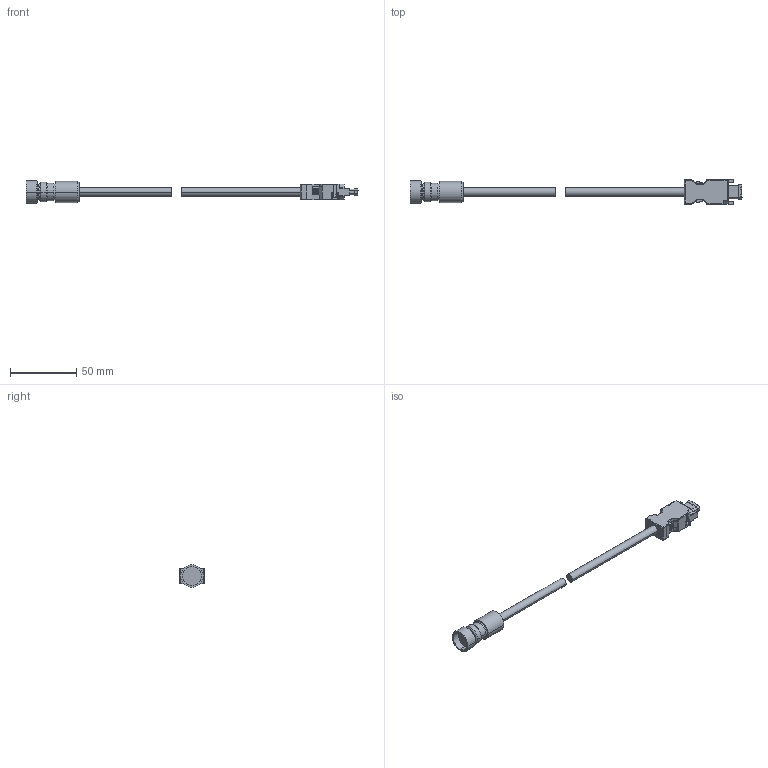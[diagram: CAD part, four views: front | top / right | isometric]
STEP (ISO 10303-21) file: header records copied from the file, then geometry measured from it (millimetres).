
FILE_DESCRIPTION(('Creo Elements/Direct Modeling STEP Export'),'2;1');
FILE_NAME('06AHP057_SIGNALCABLE_Yaskawa.stp','2025-12-16T12:02:55',(''),(''),'Creo Elements/Direct Modeling STEP processor for AP214 (Solid Model)','Creo Elements/Direct Modeling 18.1I 13-Aug-2016 (C) Parametric Technology GmbH','');
FILE_SCHEMA(('AUTOMOTIVE_DESIGN { 1 0 10303 214 1 1 1 1 }'));
Length unit declared in the file: millimetre
Products named in the file (3): CONNECTOR_Yaskawa; CONNECTOR_OR700; 06AHP057_SIGNALCABLE_Yaskawa
Assembly tree (2 placements, depth 2):
  06AHP057_SIGNALCABLE_Yaskawa
    CONNECTOR_OR700
    CONNECTOR_Yaskawa
Bounding box: 250.5 x 18.8 x 17 mm (x, y, z)
Volume: 18964.5 mm3; surface area: 9659.5 mm2
Topology: 2 solids, 2 shells, 376 faces, 942 edges, 586 vertices
Faces by surface type: plane 270, cylinder 88, cone 10, sphere 4, torus 4
Entity records: 10991 total; most frequent: CARTESIAN_POINT 2039, ORIENTED_EDGE 1876, DIRECTION 1762, EDGE_CURVE 938, VECTOR 760, LINE 760, VERTEX_POINT 586, AXIS2_PLACEMENT_3D 501
